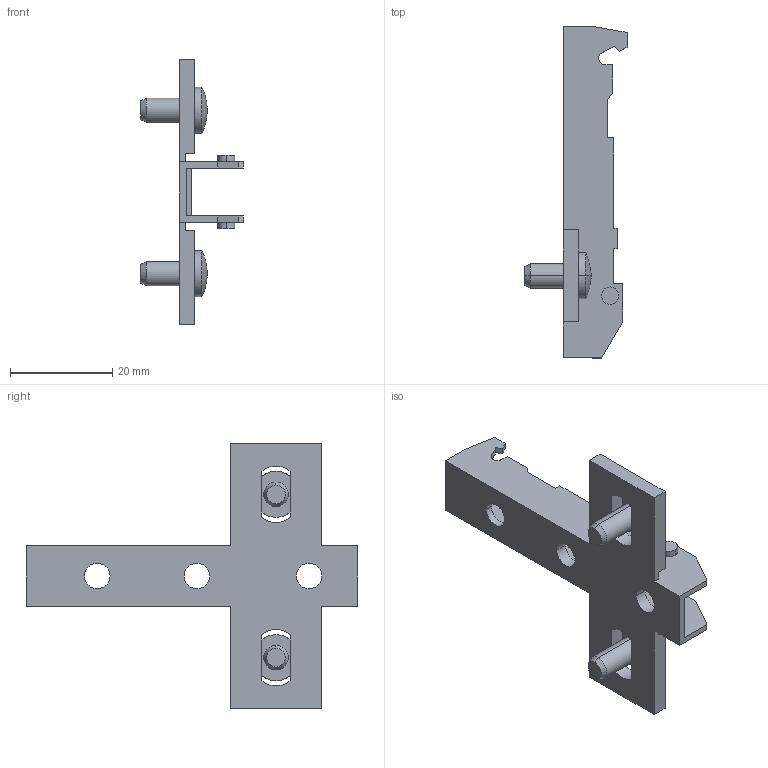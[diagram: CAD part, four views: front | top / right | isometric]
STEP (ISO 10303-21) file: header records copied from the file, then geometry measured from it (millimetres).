
FILE_DESCRIPTION (( 'STEP AP214' ), '1' );
FILE_NAME ('Eco Kreuzmontageplatte LR28_32_Euro_vorm. 10,5mm_H02.step', '2010-11-18T10:06:25', ( 'grass' ), ( '' ), 'SwSTEP 2.0', 'SolidWorks 2010', '' );
FILE_SCHEMA (( 'AUTOMOTIVE_DESIGN' ));
Length unit declared in the file: millimetre
Products named in the file (1): Eco Kreuzmontageplatte LR28_32_Euro_vorm. 10,5mm_H02
Bounding box: 20 x 65 x 52 mm (x, y, z)
Volume: 4949.7 mm3; surface area: 6330.1 mm2
Topology: 1 solids, 1 shells, 102 faces, 286 edges, 186 vertices
Faces by surface type: plane 70, cylinder 24, cone 4, sphere 4
Entity records: 3324 total; most frequent: CARTESIAN_POINT 575, ORIENTED_EDGE 572, DIRECTION 556, EDGE_CURVE 286, VECTOR 222, LINE 222, VERTEX_POINT 186, AXIS2_PLACEMENT_3D 167
